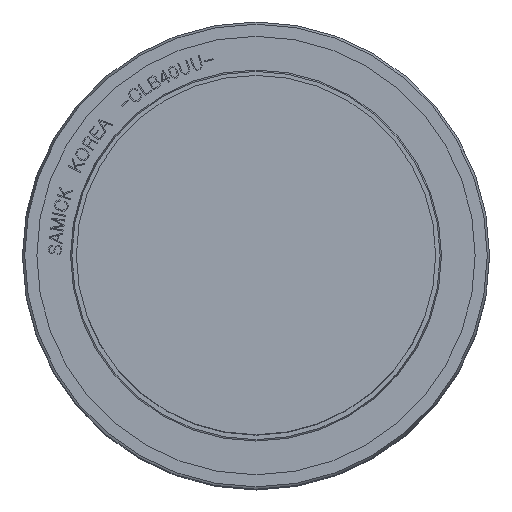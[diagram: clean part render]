
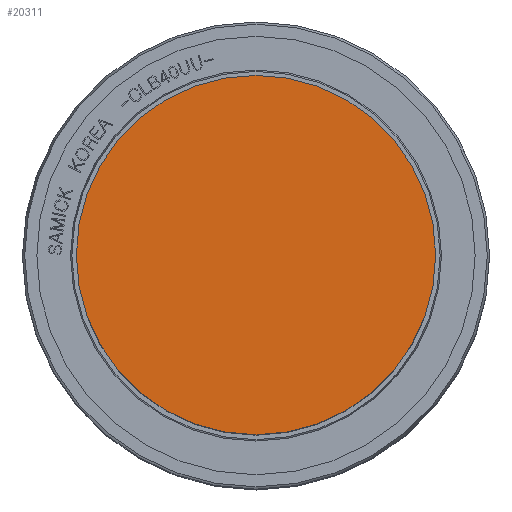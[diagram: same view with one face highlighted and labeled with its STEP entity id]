
A CAD part, top view. The second image highlights one B-rep face of the part: STEP entity #20311.
In plain terms, the highlighted planar face has unit normal (0, 0, 1).
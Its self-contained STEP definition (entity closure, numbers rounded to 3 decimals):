
#724=PLANE('',#21539);
#2603=FACE_OUTER_BOUND('',#3730,.T.);
#3730=EDGE_LOOP('',(#13404));
#4934=CIRCLE('',#21535,20.);
#8177=VERTEX_POINT('',#25903);
#10254=EDGE_CURVE('',#8177,#8177,#4934,.T.);
#13404=ORIENTED_EDGE('',*,*,#10254,.T.);
#20311=ADVANCED_FACE('',(#2603),#724,.F.);
#21535=AXIS2_PLACEMENT_3D('',#25905,#22503,#22504);
#21539=AXIS2_PLACEMENT_3D('',#25912,#22512,#22513);
#22503=DIRECTION('center_axis',(0.,0.,1.));
#22504=DIRECTION('ref_axis',(1.,0.,0.));
#22512=DIRECTION('center_axis',(0.,0.,-1.));
#22513=DIRECTION('ref_axis',(-1.,0.,0.));
#25903=CARTESIAN_POINT('',(-20.,0.,60.));
#25905=CARTESIAN_POINT('Origin',(0.,0.,60.));
#25912=CARTESIAN_POINT('Origin',(0.,0.,60.));
